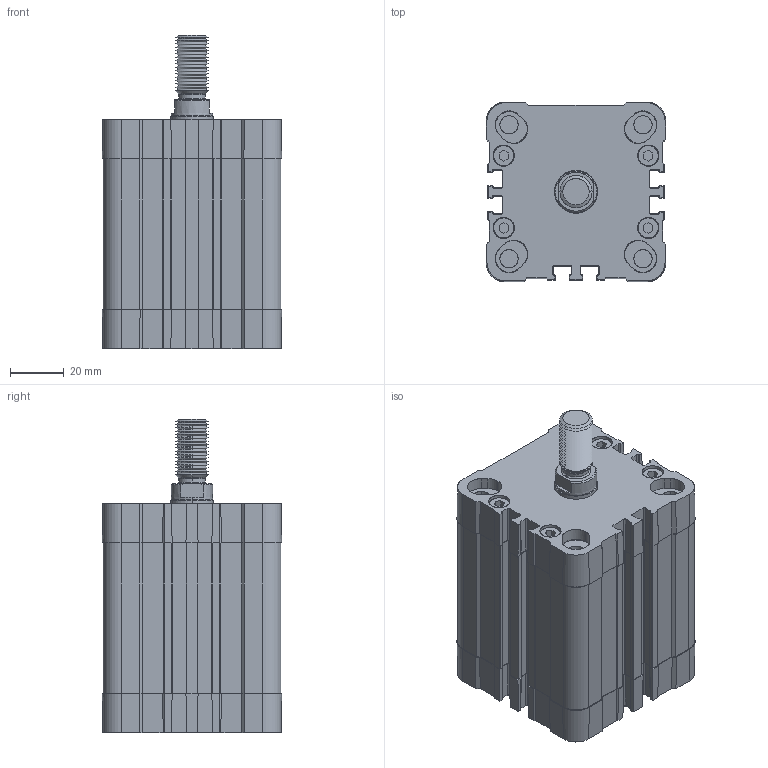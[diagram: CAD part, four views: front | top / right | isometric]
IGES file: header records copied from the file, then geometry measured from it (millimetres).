
Start section: SolidWorks IGES file using analytic representation for surfaces
Global section: file name: c:\CATALO3D\IGS\NSKU050.0040 M.IGS; native system: SolidWorks 2009; preprocessor: SolidWorks 2009; author: utente16; date: 111010.153520; units: millimetre
Bounding box: 67 x 67 x 117 mm (x, y, z)
Surface area: 85138.9 mm2 (no closed solid volume)
Topology: 0 solids, 0 shells, 1219 faces, 24727 edges, 30969 vertices
Faces by surface type: bspline 618, revolution 601
